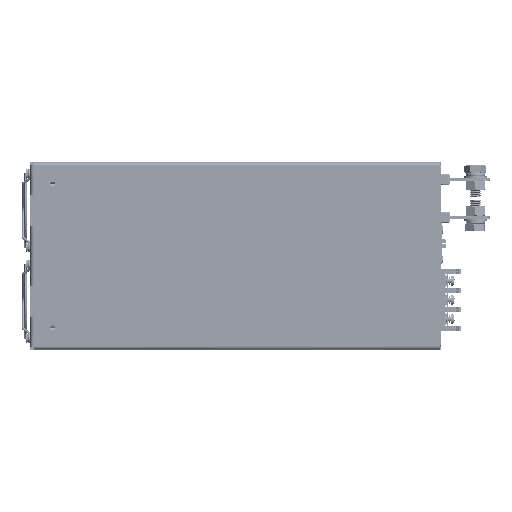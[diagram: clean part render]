
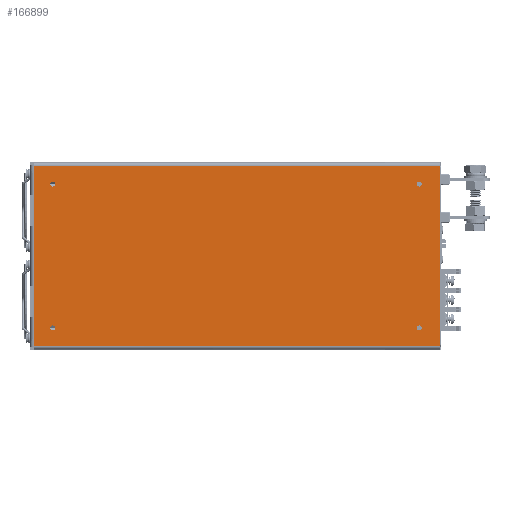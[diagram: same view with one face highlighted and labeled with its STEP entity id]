
A CAD part, front view. The second image highlights one B-rep face of the part: STEP entity #166899.
In plain terms, the highlighted planar face has unit normal (0, -1, 0).
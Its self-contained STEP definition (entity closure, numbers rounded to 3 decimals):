
#709 = LINE ( 'NONE', #120164, #18306 ) ;
#1195 = FACE_BOUND ( 'NONE', #26902, .T. ) ;
#1374 = EDGE_CURVE ( 'NONE', #8306, #217072, #122786, .T. ) ;
#3589 = CARTESIAN_POINT ( 'NONE',  ( 63.9, 0., 139.2 ) ) ;
#3631 = CARTESIAN_POINT ( 'NONE',  ( -49., 0., -126.45 ) ) ;
#4805 = VERTEX_POINT ( 'NONE', #52849 ) ;
#5120 = EDGE_CURVE ( 'NONE', #56036, #17815, #204974, .T. ) ;
#7808 = EDGE_LOOP ( 'NONE', ( #46538, #193598, #132178, #122354, #122932, #50454, #119255, #145982 ) ) ;
#8306 = VERTEX_POINT ( 'NONE', #213998 ) ;
#10421 = VECTOR ( 'NONE', #187230, 1000. ) ;
#12735 = CIRCLE ( 'NONE', #146932, 1.65 ) ;
#15155 = CARTESIAN_POINT ( 'NONE',  ( 49., 0., -124.8 ) ) ;
#16424 = CARTESIAN_POINT ( 'NONE',  ( 49., 0., 125.2 ) ) ;
#16673 = EDGE_LOOP ( 'NONE', ( #168675, #62357 ) ) ;
#17815 = VERTEX_POINT ( 'NONE', #96099 ) ;
#18306 = VECTOR ( 'NONE', #218686, 1000. ) ;
#18633 = CARTESIAN_POINT ( 'NONE',  ( -61.6, 0., 140.2 ) ) ;
#21536 = EDGE_CURVE ( 'NONE', #23613, #150331, #188981, .T. ) ;
#23613 = VERTEX_POINT ( 'NONE', #181340 ) ;
#23661 = EDGE_CURVE ( 'NONE', #217072, #8306, #202358, .T. ) ;
#26902 = EDGE_LOOP ( 'NONE', ( #183764, #191212 ) ) ;
#33972 = DIRECTION ( 'NONE',  ( 0., -1., 0. ) ) ;
#37451 = CARTESIAN_POINT ( 'NONE',  ( 0., 0., -137.4 ) ) ;
#37912 = DIRECTION ( 'NONE',  ( 1., 0., 0. ) ) ;
#38146 = AXIS2_PLACEMENT_3D ( 'NONE', #212037, #177708, #92544 ) ;
#39304 = DIRECTION ( 'NONE',  ( 0., 0., 1. ) ) ;
#39656 = DIRECTION ( 'NONE',  ( 1., 0., 0. ) ) ;
#44134 = VERTEX_POINT ( 'NONE', #54976 ) ;
#46538 = ORIENTED_EDGE ( 'NONE', *, *, #5120, .F. ) ;
#48493 = CIRCLE ( 'NONE', #172109, 1.65 ) ;
#50454 = ORIENTED_EDGE ( 'NONE', *, *, #146000, .F. ) ;
#51035 = EDGE_LOOP ( 'NONE', ( #66250, #93716 ) ) ;
#51655 = CARTESIAN_POINT ( 'NONE',  ( -61.9, 0., -137.9 ) ) ;
#52538 = VECTOR ( 'NONE', #37912, 1000. ) ;
#52849 = CARTESIAN_POINT ( 'NONE',  ( 61.9, 0., -137.9 ) ) ;
#54805 = ORIENTED_EDGE ( 'NONE', *, *, #196728, .F. ) ;
#54897 = VERTEX_POINT ( 'NONE', #55953 ) ;
#54976 = CARTESIAN_POINT ( 'NONE',  ( -49., 0., -123.15 ) ) ;
#55336 = FACE_BOUND ( 'NONE', #51035, .T. ) ;
#55953 = CARTESIAN_POINT ( 'NONE',  ( -49., 0., 126.85 ) ) ;
#56036 = VERTEX_POINT ( 'NONE', #73664 ) ;
#56499 = DIRECTION ( 'NONE',  ( 0., -1., 0. ) ) ;
#57013 = DIRECTION ( 'NONE',  ( 0., 0., -1. ) ) ;
#62357 = ORIENTED_EDGE ( 'NONE', *, *, #157170, .F. ) ;
#64652 = AXIS2_PLACEMENT_3D ( 'NONE', #155474, #188671, #57013 ) ;
#65338 = VERTEX_POINT ( 'NONE', #200309 ) ;
#66250 = ORIENTED_EDGE ( 'NONE', *, *, #181393, .F. ) ;
#71406 = VECTOR ( 'NONE', #39656, 1000. ) ;
#71438 = EDGE_CURVE ( 'NONE', #92281, #164646, #48493, .T. ) ;
#73664 = CARTESIAN_POINT ( 'NONE',  ( -61.6, 0., 139.2 ) ) ;
#75253 = CARTESIAN_POINT ( 'NONE',  ( 49., 0., -124.8 ) ) ;
#80819 = DIRECTION ( 'NONE',  ( 0., -1., 0. ) ) ;
#81459 = VERTEX_POINT ( 'NONE', #98601 ) ;
#82806 = DIRECTION ( 'NONE',  ( 0., 0., -1. ) ) ;
#83148 = VECTOR ( 'NONE', #39304, 1000. ) ;
#83339 = EDGE_CURVE ( 'NONE', #56036, #150331, #200109, .T. ) ;
#85615 = AXIS2_PLACEMENT_3D ( 'NONE', #16424, #151384, #82806 ) ;
#86345 = PLANE ( 'NONE',  #143150 ) ;
#89464 = EDGE_CURVE ( 'NONE', #138656, #23613, #102095, .T. ) ;
#92281 = VERTEX_POINT ( 'NONE', #127648 ) ;
#92544 = DIRECTION ( 'NONE',  ( 0., 0., -1. ) ) ;
#93716 = ORIENTED_EDGE ( 'NONE', *, *, #139011, .F. ) ;
#96099 = CARTESIAN_POINT ( 'NONE',  ( 61.6, 0., 139.2 ) ) ;
#96856 = CARTESIAN_POINT ( 'NONE',  ( -49., 0., -124.8 ) ) ;
#98601 = CARTESIAN_POINT ( 'NONE',  ( 61.6, 0., -137.4 ) ) ;
#100687 = CARTESIAN_POINT ( 'NONE',  ( -49., 0., 125.2 ) ) ;
#102095 = LINE ( 'NONE', #119775, #10421 ) ;
#107395 = DIRECTION ( 'NONE',  ( 0., 0., -1. ) ) ;
#115621 = DIRECTION ( 'NONE',  ( 0., 0., -1. ) ) ;
#115892 = DIRECTION ( 'NONE',  ( 1., 0., 0. ) ) ;
#119255 = ORIENTED_EDGE ( 'NONE', *, *, #171397, .F. ) ;
#119775 = CARTESIAN_POINT ( 'NONE',  ( -61.9, 0., -137.4 ) ) ;
#120164 = CARTESIAN_POINT ( 'NONE',  ( 0., 0., -137.4 ) ) ;
#120770 = VERTEX_POINT ( 'NONE', #3631 ) ;
#122354 = ORIENTED_EDGE ( 'NONE', *, *, #89464, .F. ) ;
#122786 = CIRCLE ( 'NONE', #38146, 1.65 ) ;
#122932 = ORIENTED_EDGE ( 'NONE', *, *, #133894, .T. ) ;
#124070 = CARTESIAN_POINT ( 'NONE',  ( 49., 0., 123.55 ) ) ;
#127648 = CARTESIAN_POINT ( 'NONE',  ( 49., 0., -126.45 ) ) ;
#128612 = LINE ( 'NONE', #177317, #129671 ) ;
#129671 = VECTOR ( 'NONE', #194995, 1000. ) ;
#130714 = DIRECTION ( 'NONE',  ( 0., 0., -1. ) ) ;
#132178 = ORIENTED_EDGE ( 'NONE', *, *, #21536, .F. ) ;
#133420 = AXIS2_PLACEMENT_3D ( 'NONE', #15155, #33972, #169976 ) ;
#133894 = EDGE_CURVE ( 'NONE', #138656, #4805, #203236, .T. ) ;
#136152 = FACE_OUTER_BOUND ( 'NONE', #7808, .T. ) ;
#138656 = VERTEX_POINT ( 'NONE', #51655 ) ;
#139011 = EDGE_CURVE ( 'NONE', #44134, #120770, #185504, .T. ) ;
#139728 = EDGE_LOOP ( 'NONE', ( #206138, #54805 ) ) ;
#142143 = LINE ( 'NONE', #208564, #83148 ) ;
#143150 = AXIS2_PLACEMENT_3D ( 'NONE', #170420, #151656, #172619 ) ;
#144065 = CARTESIAN_POINT ( 'NONE',  ( -49., 0., -124.8 ) ) ;
#145982 = ORIENTED_EDGE ( 'NONE', *, *, #180914, .T. ) ;
#146000 = EDGE_CURVE ( 'NONE', #179785, #4805, #128612, .T. ) ;
#146932 = AXIS2_PLACEMENT_3D ( 'NONE', #144065, #181606, #130714 ) ;
#150331 = VERTEX_POINT ( 'NONE', #208997 ) ;
#150506 = CARTESIAN_POINT ( 'NONE',  ( 61.9, 0., -137.4 ) ) ;
#151384 = DIRECTION ( 'NONE',  ( 0., -1., 0. ) ) ;
#151555 = DIRECTION ( 'NONE',  ( 0., 0., -1. ) ) ;
#151656 = DIRECTION ( 'NONE',  ( 0., 1., 0. ) ) ;
#155474 = CARTESIAN_POINT ( 'NONE',  ( -49., 0., 125.2 ) ) ;
#157170 = EDGE_CURVE ( 'NONE', #164646, #92281, #158200, .T. ) ;
#158200 = CIRCLE ( 'NONE', #133420, 1.65 ) ;
#160025 = CIRCLE ( 'NONE', #64652, 1.65 ) ;
#163274 = AXIS2_PLACEMENT_3D ( 'NONE', #100687, #80819, #151555 ) ;
#163924 = FACE_BOUND ( 'NONE', #16673, .T. ) ;
#164646 = VERTEX_POINT ( 'NONE', #185341 ) ;
#166899 = ADVANCED_FACE ( 'NONE', ( #163924, #55336, #168246, #1195, #136152 ), #86345, .F. ) ;
#168246 = FACE_BOUND ( 'NONE', #139728, .T. ) ;
#168675 = ORIENTED_EDGE ( 'NONE', *, *, #71438, .F. ) ;
#169976 = DIRECTION ( 'NONE',  ( 0., 0., -1. ) ) ;
#170420 = CARTESIAN_POINT ( 'NONE',  ( 0., 0., 0. ) ) ;
#171397 = EDGE_CURVE ( 'NONE', #81459, #179785, #709, .T. ) ;
#172109 = AXIS2_PLACEMENT_3D ( 'NONE', #75253, #56499, #107395 ) ;
#172619 = DIRECTION ( 'NONE',  ( 1., 0., 0. ) ) ;
#177317 = CARTESIAN_POINT ( 'NONE',  ( 61.9, 0., -137.4 ) ) ;
#177708 = DIRECTION ( 'NONE',  ( 0., -1., 0. ) ) ;
#179785 = VERTEX_POINT ( 'NONE', #150506 ) ;
#180914 = EDGE_CURVE ( 'NONE', #81459, #17815, #142143, .T. ) ;
#181340 = CARTESIAN_POINT ( 'NONE',  ( -61.9, 0., -137.4 ) ) ;
#181393 = EDGE_CURVE ( 'NONE', #120770, #44134, #12735, .T. ) ;
#181606 = DIRECTION ( 'NONE',  ( 0., -1., 0. ) ) ;
#182098 = VECTOR ( 'NONE', #201229, 1000. ) ;
#183764 = ORIENTED_EDGE ( 'NONE', *, *, #23661, .F. ) ;
#185341 = CARTESIAN_POINT ( 'NONE',  ( 49., 0., -123.15 ) ) ;
#185504 = CIRCLE ( 'NONE', #192486, 1.65 ) ;
#187230 = DIRECTION ( 'NONE',  ( 0., 0., 1. ) ) ;
#188019 = CIRCLE ( 'NONE', #163274, 1.65 ) ;
#188671 = DIRECTION ( 'NONE',  ( 0., -1., 0. ) ) ;
#188981 = LINE ( 'NONE', #37451, #71406 ) ;
#190781 = EDGE_CURVE ( 'NONE', #65338, #54897, #160025, .T. ) ;
#191212 = ORIENTED_EDGE ( 'NONE', *, *, #1374, .F. ) ;
#192486 = AXIS2_PLACEMENT_3D ( 'NONE', #96856, #201887, #115621 ) ;
#193598 = ORIENTED_EDGE ( 'NONE', *, *, #83339, .T. ) ;
#194995 = DIRECTION ( 'NONE',  ( 0., 0., -1. ) ) ;
#196728 = EDGE_CURVE ( 'NONE', #54897, #65338, #188019, .T. ) ;
#198364 = VECTOR ( 'NONE', #115892, 1000. ) ;
#200109 = LINE ( 'NONE', #18633, #182098 ) ;
#200309 = CARTESIAN_POINT ( 'NONE',  ( -49., 0., 123.55 ) ) ;
#201229 = DIRECTION ( 'NONE',  ( 0., 0., -1. ) ) ;
#201887 = DIRECTION ( 'NONE',  ( 0., -1., 0. ) ) ;
#202358 = CIRCLE ( 'NONE', #85615, 1.65 ) ;
#203236 = LINE ( 'NONE', #216570, #198364 ) ;
#204974 = LINE ( 'NONE', #3589, #52538 ) ;
#206138 = ORIENTED_EDGE ( 'NONE', *, *, #190781, .F. ) ;
#208564 = CARTESIAN_POINT ( 'NONE',  ( 61.6, 0., -137.4 ) ) ;
#208997 = CARTESIAN_POINT ( 'NONE',  ( -61.6, 0., -137.4 ) ) ;
#212037 = CARTESIAN_POINT ( 'NONE',  ( 49., 0., 125.2 ) ) ;
#213998 = CARTESIAN_POINT ( 'NONE',  ( 49., 0., 126.85 ) ) ;
#216570 = CARTESIAN_POINT ( 'NONE',  ( -61.9, 0., -137.9 ) ) ;
#217072 = VERTEX_POINT ( 'NONE', #124070 ) ;
#218686 = DIRECTION ( 'NONE',  ( 1., 0., 0. ) ) ;
